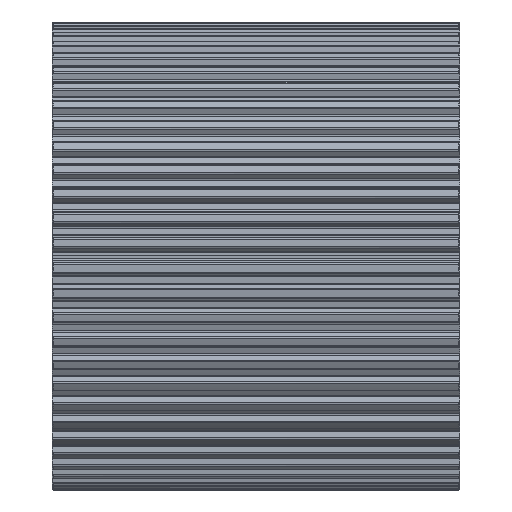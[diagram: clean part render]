
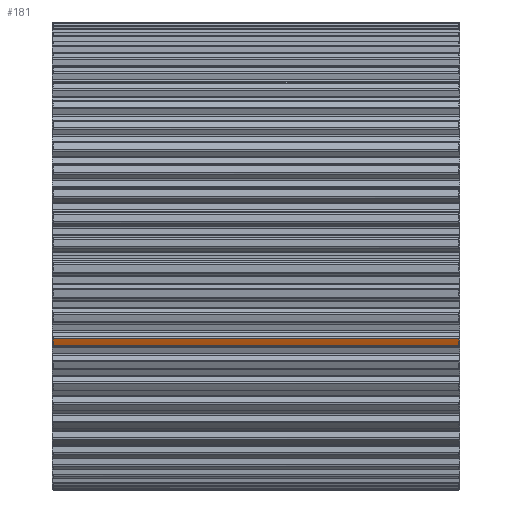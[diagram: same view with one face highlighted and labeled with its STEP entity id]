
A CAD part, top view. The second image highlights one B-rep face of the part: STEP entity #181.
In plain terms, the highlighted cylindrical face has radius 91.81 mm (diameter 183.62 mm), a partial arc.
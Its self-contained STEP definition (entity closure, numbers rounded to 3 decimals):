
#181=ADVANCED_FACE('',(#888),#889,.T.);
#888=FACE_OUTER_BOUND('',#2090,.T.);
#889=CYLINDRICAL_SURFACE('',#2091,91.81);
#2090=EDGE_LOOP('',(#3956,#3957,#3958,#3959));
#2091=AXIS2_PLACEMENT_3D('',#3960,#3961,#3962);
#3956=ORIENTED_EDGE('',*,*,#8727,.T.);
#3957=ORIENTED_EDGE('',*,*,#8930,.T.);
#3958=ORIENTED_EDGE('',*,*,#8931,.T.);
#3959=ORIENTED_EDGE('',*,*,#8932,.T.);
#3960=CARTESIAN_POINT('',(80.0,0.0,0.0));
#3961=DIRECTION('',(1.0,0.0,-0.0));
#3962=DIRECTION('',(0.0,0.929,0.37));
#8727=EDGE_CURVE('',#10771,#10780,#10782,.T.);
#8930=EDGE_CURVE('',#10780,#11156,#11157,.T.);
#8931=EDGE_CURVE('',#11156,#11158,#11159,.T.);
#8932=EDGE_CURVE('',#11158,#10771,#11160,.T.);
#10771=VERTEX_POINT('',#15181);
#10780=VERTEX_POINT('',#15217);
#10782=CIRCLE('',#15228,91.81);
#11156=VERTEX_POINT('',#16508);
#11157=LINE('',#16509,#16510);
#11158=VERTEX_POINT('',#16511);
#11159=CIRCLE('',#16512,91.81);
#11160=LINE('',#16513,#16514);
#15181=CARTESIAN_POINT('',(0.5,-32.604,85.826));
#15217=CARTESIAN_POINT('',(0.5,-35.352,84.731));
#15228=AXIS2_PLACEMENT_3D('',#21375,#21376,#21377);
#16508=CARTESIAN_POINT('',(159.5,-35.352,84.731));
#16509=CARTESIAN_POINT('',(80.0,-35.352,84.731));
#16510=VECTOR('',#21582,1.0);
#16511=CARTESIAN_POINT('',(159.5,-32.604,85.826));
#16512=AXIS2_PLACEMENT_3D('',#21583,#21584,#21585);
#16513=CARTESIAN_POINT('',(80.0,-32.604,85.826));
#16514=VECTOR('',#21586,1.0);
#21375=CARTESIAN_POINT('',(0.5,0.0,0.0));
#21376=DIRECTION('',(1.0,0.,0.));
#21377=DIRECTION('',(0.,0.929,0.37));
#21582=DIRECTION('',(1.0,0.0,0.0));
#21583=CARTESIAN_POINT('',(159.5,0.0,0.0));
#21584=DIRECTION('',(-1.0,0.0,0.0));
#21585=DIRECTION('',(0.0,0.929,0.37));
#21586=DIRECTION('',(-1.0,0.0,0.0));
